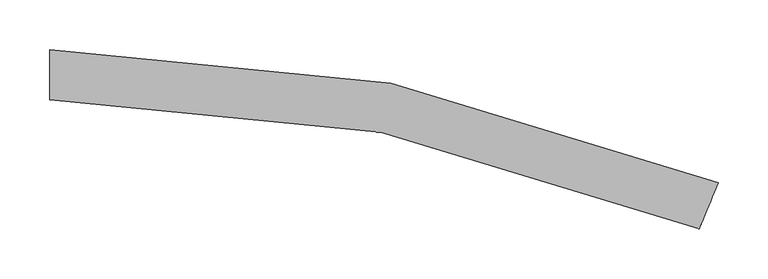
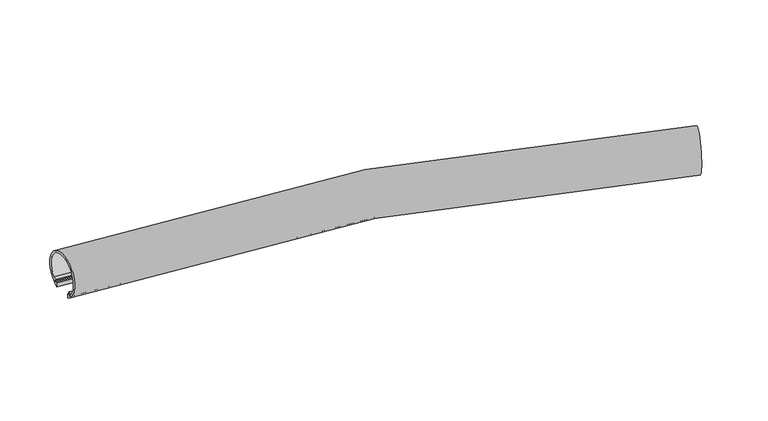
"""IFC4 building model written with IfcOpenShell, lengths in millimetres: light fixture geometry, ARTEMIDE-AoL-System-Curved_Suspended_US : Suspended_Curved 22.5°-1726mm 1118lm 3500K."""

import ifcopenshell
import ifcopenshell.guid

model = None  # the IFC model being written
_history = None  # IfcOwnerHistory: only IFC2X3 demands one
_inside = {}  # id of a spatial element -> (the spatial element, [elements in it])
_under = {}  # id of a project, library or spatial element -> (it, [spatial elements below it])
_declared = {}  # id of a project -> (the project, [libraries it declares])
_typed = {}  # id of a type object -> (the type object, [elements of that type])
_made_of = {}  # id of a material, layer set ... -> (it, [elements and type objects made of it])


def new_model(schema):
    """Start an empty IFC model of exactly this schema.

    Asked for "IFC4X3", IfcOpenShell would pick the latest addendum, in which some entities
    have other attributes; the version numbers below select the first issue.
    IFC2X3 requires an IfcOwnerHistory on every rooted entity: one is made here for all.
    """
    global model, _history
    if schema == "IFC4X3":
        model = ifcopenshell.file(schema_version=(4, 3, 0, 0))
    else:
        model = ifcopenshell.file(schema=schema)
    _inside.clear()
    _under.clear()
    _declared.clear()
    _typed.clear()
    _made_of.clear()
    _history = None
    if model.schema == "IFC2X3":
        org = make("IfcOrganization", Name="unknown")
        user = make(
            "IfcPersonAndOrganization",
            ThePerson=make("IfcPerson", FamilyName="unknown"),
            TheOrganization=org,
        )
        app = make(
            "IfcApplication",
            ApplicationDeveloper=org,
            Version="unknown",
            ApplicationFullName="unknown",
            ApplicationIdentifier="unknown",
        )
        _history = make(
            "IfcOwnerHistory",
            OwningUser=user,
            OwningApplication=app,
            ChangeAction="ADDED",
            CreationDate=0,
        )
    return model


def make(cls, **values):
    """One entity of the class cls with the attributes given. An attribute that is None is left unset."""
    return model.create_entity(
        cls, **{name: value for name, value in values.items() if value is not None}
    )


def rooted(cls, **values):
    """An entity with a GlobalId (a new one), such as an element, a storey or a relation."""
    return make(cls, GlobalId=ifcopenshell.guid.new(), OwnerHistory=_history, **values)


def si_unit(unit_type, name, prefix=None):
    """IfcSIUnit, for example si_unit("LENGTHUNIT", "METRE", prefix="MILLI")."""
    return make("IfcSIUnit", UnitType=unit_type, Prefix=prefix, Name=name)


def assignment(units):
    """IfcUnitAssignment: the units of a project."""
    return None if units is None else make("IfcUnitAssignment", Units=units)


def point(xyz):
    """IfcCartesianPoint."""
    return None if xyz is None else make("IfcCartesianPoint", Coordinates=xyz)


def direction(xyz):
    """IfcDirection."""
    return None if xyz is None else make("IfcDirection", DirectionRatios=xyz)


def frame(location, z_axis=None, x_axis=None):
    """IfcAxis2Placement3D, a coordinate frame: its origin and axes. An axis left out is left unset."""
    return make(
        "IfcAxis2Placement3D",
        Location=point(location),
        Axis=direction(z_axis),
        RefDirection=direction(x_axis),
    )


def origin():
    """The frame at (0, 0, 0) with its axes left unset."""
    return frame((0.0, 0.0, 0.0))


def place(relative_to, where):
    """IfcLocalPlacement: puts the frame where relative to a parent placement (None: the world)."""
    return make(
        "IfcLocalPlacement", PlacementRelTo=relative_to, RelativePlacement=where
    )


def context(
    kind, dimensions, precision=None, world=None, true_north=None, identifier=None
):
    """IfcGeometricRepresentationContext, for example the 3D "Model" context."""
    return make(
        "IfcGeometricRepresentationContext",
        ContextIdentifier=identifier,
        ContextType=kind,
        CoordinateSpaceDimension=dimensions,
        Precision=precision,
        WorldCoordinateSystem=world,
        TrueNorth=true_north,
    )


def project(units=None, contexts=None):
    """IfcProject with its units and contexts."""
    return rooted(
        "IfcProject",
        Name="project",
        RepresentationContexts=contexts,
        UnitsInContext=assignment(units),
    )


def spatial(cls, under=None, at=None, **own):
    """A site, building, storey or space (cls), placed at a placement, below another one or the project."""
    s = rooted(cls, ObjectPlacement=at, **own)
    if under is not None:
        _under.setdefault(under.id(), (under, []))[1].append(s)
    return s


def polyline(points):
    """IfcPolyline through the points."""
    return make("IfcPolyline", Points=[point(p) for p in points])


def circle_curve(where, radius):
    """IfcCircle in the frame where."""
    return make("IfcCircle", Position=where, Radius=radius)


def ellipse_curve(where, semi_axis1, semi_axis2):
    """IfcEllipse in the frame where."""
    return make(
        "IfcEllipse", Position=where, SemiAxis1=semi_axis1, SemiAxis2=semi_axis2
    )


def trimmed(basis, trim1, trim2, sense, master):
    """IfcTrimmedCurve: the piece of a basis curve between two trims."""
    return make(
        "IfcTrimmedCurve",
        BasisCurve=basis,
        Trim1=trim1,
        Trim2=trim2,
        SenseAgreement=sense,
        MasterRepresentation=master,
    )


def shape(context_of_items, identifier, shape_type, items):
    """IfcShapeRepresentation: the items that make up one representation, for example the "Body"."""
    return make(
        "IfcShapeRepresentation",
        ContextOfItems=context_of_items,
        RepresentationIdentifier=identifier,
        RepresentationType=shape_type,
        Items=items,
    )


def source(mapping_origin, context_of_items, identifier, shape_type, items):
    """IfcRepresentationMap: a shape defined once, which mapped items show again and again."""
    return make(
        "IfcRepresentationMap",
        MappingOrigin=mapping_origin,
        MappedRepresentation=shape(context_of_items, identifier, shape_type, items),
    )


def transform(
    local_origin,
    x_axis=None,
    y_axis=None,
    z_axis=None,
    scale=None,
    scale2=None,
    scale3=None,
    uniform=True,
):
    """IfcCartesianTransformationOperator3D, or its non-uniform kind. x_axis, y_axis, z_axis: its Axis1, 2, 3."""
    if uniform:
        return make(
            "IfcCartesianTransformationOperator3D",
            Axis1=direction(x_axis),
            Axis2=direction(y_axis),
            LocalOrigin=point(local_origin),
            Scale=scale,
            Axis3=direction(z_axis),
        )
    return make(
        "IfcCartesianTransformationOperator3DnonUniform",
        Axis1=direction(x_axis),
        Axis2=direction(y_axis),
        LocalOrigin=point(local_origin),
        Scale=scale,
        Axis3=direction(z_axis),
        Scale2=scale2,
        Scale3=scale3,
    )


def mapped(mapping_source, mapping_target):
    """IfcMappedItem: shows the shape of a source again, moved by a transform."""
    return make(
        "IfcMappedItem", MappingSource=mapping_source, MappingTarget=mapping_target
    )


def made_of(thing, what):
    """Note that an element or type object is made of a material, layer set ...; save() writes the relation."""
    if what is not None:
        _made_of.setdefault(what.id(), (what, []))[1].append(thing)
    return thing


def element(
    cls,
    number,
    at=None,
    inside=None,
    cuts=None,
    type_object=None,
    material=None,
    context=None,
    identifier="Body",
    shape_type=None,
    held_by="IfcProductDefinitionShape",
    body=None,
    shapes=None,
    **own,
):
    """One element of the class cls, such as IfcWall. Its Tag is "e" and its number.

    at: its placement. inside: the storey or other place that contains it. cuts: it is an
    opening in that element (IfcRelVoidsElement). A single representation is given by context,
    identifier, shape_type and body (its items); several are given by shapes. held_by: the class
    of the entity that holds the representations. save() writes the other relations.
    """
    e = rooted(cls, Tag="e%d" % number, ObjectPlacement=at, **own)
    if body is not None:
        shapes = [shape(context, identifier, shape_type, body)]
    if shapes is not None:
        e.Representation = make(held_by, Representations=shapes)
    if inside is not None:
        _inside.setdefault(inside.id(), (inside, []))[1].append(e)
    if cuts is not None:
        rooted(
            "IfcRelVoidsElement", RelatingBuildingElement=cuts, RelatedOpeningElement=e
        )
    if type_object is not None:
        _typed.setdefault(type_object.id(), (type_object, []))[1].append(e)
    return made_of(e, material)


def aggregate(whole, parts):
    """IfcRelAggregates: a whole, such as a stair, and the parts it consists of."""
    return rooted("IfcRelAggregates", RelatingObject=whole, RelatedObjects=parts)


def save(model, path):
    """Write the relations noted so far, then the file.

    IfcRelAggregates (storeys below a building ...), IfcRelContainedInSpatialStructure (elements
    in a storey), IfcRelDefinesByType, IfcRelAssociatesMaterial and IfcRelDeclares: one each for
    every whole, place, type object, material and project.
    """
    for whole, parts in _under.values():
        aggregate(whole, parts)
    for where, things in _inside.values():
        rooted(
            "IfcRelContainedInSpatialStructure",
            RelatedElements=things,
            RelatingStructure=where,
        )
    for kind, things in _typed.values():
        rooted("IfcRelDefinesByType", RelatedObjects=things, RelatingType=kind)
    for what, things in _made_of.values():
        rooted("IfcRelAssociatesMaterial", RelatedObjects=things, RelatingMaterial=what)
    for by, libraries in _declared.values():
        rooted("IfcRelDeclares", RelatingContext=by, RelatedDefinitions=libraries)
    model.write(path)


def plane_surface(at):
    """IfcPlane: the flat surface through the origin of the frame at, square to its z axis."""
    return make("IfcPlane", Position=at)


def cylinder_surface(at, radius):
    """IfcCylindricalSurface: all points at the distance radius from the z axis of the frame at."""
    return make("IfcCylindricalSurface", Position=at, Radius=radius)


def revolved_surface(curve, axis_point, axis_direction):
    """IfcSurfaceOfRevolution: the curve turned about the line through axis_point along axis_direction."""
    return make(
        "IfcSurfaceOfRevolution",
        SweptCurve=make("IfcArbitraryOpenProfileDef", ProfileType="CURVE", Curve=curve),
        AxisPosition=make("IfcAxis1Placement", Location=point(axis_point), Axis=direction(axis_direction)),
    )


def advanced_brep(points, edges, surfaces, faces):
    """IfcAdvancedBrep: a solid bounded by faces that lie on surfaces and meet in shared edges.

    An edge is (start, end): straight between two places in points (the first is 0);
    or (start, end, curve); or (start, end, curve, False) where it runs against its curve.
    A face is (place in surfaces, loops), or (place, loops, False) where it looks against
    its surface's normal. A loop lists edges by number (the first is 1), with a minus sign
    where the edge is run from its end to its start. The first loop is the outer one.
    """
    corners = [point(p) for p in points]
    vertices = [make("IfcVertexPoint", VertexGeometry=c) for c in corners]
    made = []
    for start, end, *more in edges:
        made.append(
            make(
                "IfcEdgeCurve",
                EdgeStart=vertices[start],
                EdgeEnd=vertices[end],
                EdgeGeometry=more[0] if more else make("IfcPolyline", Points=[corners[start], corners[end]]),
                SameSense=more[1] if len(more) > 1 else True,
            )
        )
    hull = []
    for where, loops, *sense in faces:
        bounds = []
        for j, loop in enumerate(loops):
            ring = [make("IfcOrientedEdge", EdgeElement=made[abs(k) - 1], Orientation=k > 0) for k in loop]
            bounds.append(
                make(
                    "IfcFaceOuterBound" if j == 0 else "IfcFaceBound",
                    Bound=make("IfcEdgeLoop", EdgeList=ring),
                    Orientation=True,
                )
            )
        hull.append(make("IfcAdvancedFace", Bounds=bounds, FaceSurface=surfaces[where], SameSense=sense[0] if sense else True))
    return make("IfcAdvancedBrep", Outer=make("IfcClosedShell", CfsFaces=hull))


def light_fixture_542ddf44(model_context):
    return source(origin(), model_context, "Body", "AdvancedBrep", [
        advanced_brep(
        [(608.0429238, -98.7153269, 502.6676119), (608.0429238, -98.7153269, 507.259212), (608.894281, -96.4382685, 507.259212), (608.894281, -96.4382685, 509.244074), (608.5440736, -97.3749407, 509.244074), (608.5440736, -97.3749407, 510.744074), (599.6713917, -121.1060064, 510.744074), (599.6713917, -121.1060064, 509.244074), (599.3211843, -122.0426786, 509.244074), (599.3211843, -122.0426786, 507.259212), (600.1725416, -119.7656202, 507.259212), (600.1725416, -119.7656202, 502.6676119), (59.8094751, -12.2807234, 502.6676119), (60.5937886, 10.1790766, 502.6676119), (60.5937886, 10.1790766, 507.259212), (60.6786295, 12.6086046, 507.259212), (60.6786295, 12.6086046, 509.244074), (60.6437301, 11.6092138, 509.244074), (60.6437301, 11.6092138, 510.744074), (59.7595336, -13.7108605, 510.744074), (59.7595336, -13.7108605, 509.244074), (59.7246341, -14.7102514, 509.244074), (59.7246341, -14.7102514, 507.259212), (59.8094751, -12.2807234, 507.259212)],
        [
            (0, 1),
            (1, 2),
            (2, 3),
            (3, 4),
            (4, 5),
            (5, 6),
            (6, 7),
            (7, 8),
            (8, 9),
            (9, 10),
            (10, 11),
            (11, 0, circle_curve(frame((604.1077327, -109.2404735, 525.0), z_axis=(0.936672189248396, -0.35020738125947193, 0.0), x_axis=(0.35020738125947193, 0.936672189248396, 0.0)), 25.0)),
            (11, 12, circle_curve(frame((0.0, -1725.0, 502.6676119), z_axis=(0.0, 0.0, 1.0), x_axis=(0.0, 1.0, 0.0)), 1713.7632549)),
            (12, 13, circle_curve(frame((60.2016318, -1.0508234, 525.0), z_axis=(0.9993908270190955, -0.03489949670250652, 0.0), x_axis=(0.03489949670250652, 0.9993908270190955, 0.0)), 25.0)),
            (13, 0, circle_curve(frame((0.0, -1725.0, 502.6676119), z_axis=(0.0, 0.0, -1.0), x_axis=(0.0, 1.0, 0.0)), 1736.2367451)),
            (13, 14),
            (14, 1, circle_curve(frame((0.0, -1725.0, 507.259212), z_axis=(0.0, 0.0, -1.0), x_axis=(0.0, 1.0, 0.0)), 1736.2367451)),
            (14, 15),
            (15, 2, circle_curve(frame((0.0, -1725.0, 507.259212), z_axis=(0.0, 0.0, -1.0), x_axis=(0.0, 1.0, 0.0)), 1738.667754)),
            (15, 16),
            (16, 3, circle_curve(frame((0.0, -1725.0, 509.244074), z_axis=(0.0, 0.0, -1.0), x_axis=(0.0, 1.0, 0.0)), 1738.667754)),
            (16, 17),
            (17, 4, circle_curve(frame((0.0, -1725.0, 509.244074), z_axis=(0.0, 0.0, -1.0), x_axis=(0.0, 1.0, 0.0)), 1737.667754)),
            (17, 18),
            (18, 5, circle_curve(frame((0.0, -1725.0, 510.744074), z_axis=(0.0, 0.0, -1.0), x_axis=(0.0, 1.0, 0.0)), 1737.667754)),
            (18, 19),
            (19, 6, circle_curve(frame((0.0, -1725.0, 510.744074), z_axis=(0.0, 0.0, -1.0), x_axis=(0.0, 1.0, 0.0)), 1712.332246)),
            (19, 20),
            (20, 7, circle_curve(frame((0.0, -1725.0, 509.244074), z_axis=(0.0, 0.0, -1.0), x_axis=(0.0, 1.0, 0.0)), 1712.332246)),
            (20, 21),
            (21, 8, circle_curve(frame((0.0, -1725.0, 509.244074), z_axis=(0.0, 0.0, -1.0), x_axis=(0.0, 1.0, 0.0)), 1711.332246)),
            (21, 22),
            (22, 9, circle_curve(frame((0.0, -1725.0, 507.259212), z_axis=(0.0, 0.0, -1.0), x_axis=(0.0, 1.0, 0.0)), 1711.332246)),
            (22, 23),
            (23, 10, circle_curve(frame((0.0, -1725.0, 507.259212), z_axis=(0.0, 0.0, -1.0), x_axis=(0.0, 1.0, 0.0)), 1713.7632549)),
            (23, 12),
        ],
        [
            plane_surface(frame((604.1077327, -109.2404735, 500.0), z_axis=(0.9366721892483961, -0.3502073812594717, 0.0), x_axis=(0.0, 0.0, 1.0))),
            revolved_surface(trimmed(ellipse_curve(frame((0.0, 0.0, 525.0), z_axis=(-1.0, 0.0, 0.0), x_axis=(0.0, 1.0, 0.0)), 25.0, 25.0), [point((0.0, 11.2367451, 502.6676119))], [point((0.0, -11.2367451, 502.6676119))], True, "CARTESIAN"), (0.0, -1725.0, 500.0), (0.0, 0.0, -1.0)),
            cylinder_surface(frame((0.0, -1725.0, 500.0), z_axis=(0.0, 0.0, -1.0), x_axis=(0.0, 1.0, 0.0)), 1736.2367451),
            plane_surface(frame((0.0, -1725.0, 507.259212), z_axis=(0.0, 0.0, -1.0), x_axis=(0.0, 1.0, 0.0))),
            cylinder_surface(frame((0.0, -1725.0, 500.0), z_axis=(0.0, 0.0, -1.0), x_axis=(0.0, 1.0, 0.0)), 1738.667754),
            plane_surface(frame((0.0, -1725.0, 509.244074), z_axis=(0.0, 0.0, 1.0), x_axis=(0.0, 1.0, 0.0))),
            cylinder_surface(frame((0.0, -1725.0, 500.0), z_axis=(0.0, 0.0, -1.0), x_axis=(0.0, 1.0, 0.0)), 1737.667754),
            plane_surface(frame((0.0, -1725.0, 510.744074), z_axis=(0.0, 0.0, 1.0), x_axis=(0.0, 1.0, 0.0))),
            revolved_surface(polyline([(0.0, -12.667754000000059, 509.244074), (0.0, -12.667754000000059, 510.744074)]), (0.0, -1725.0, 500.0), (0.0, 0.0, -1.0)),
            revolved_surface(polyline([(0.0, -13.667754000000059, 507.259212), (0.0, -13.667754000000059, 509.244074)]), (0.0, -1725.0, 500.0), (0.0, 0.0, -1.0)),
            revolved_surface(polyline([(0.0, -11.236745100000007, 502.6676119), (0.0, -11.236745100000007, 507.259212)]), (0.0, -1725.0, 500.0), (0.0, 0.0, -1.0)),
            plane_surface(frame((60.2016318, -1.0508234, 500.0), z_axis=(-0.9993908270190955, 0.03489949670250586, 0.0), x_axis=(0.0, 0.0, 1.0))),
        ],
        [
            (0, [[1, 2, 3, 4, 5, 6, 7, 8, 9, 10, 11, 12]]),
            (1, [[-12, 13, 14, 15]]),
            (2, [[-1, -15, 16, 17]]),
            (3, [[-2, -17, 18, 19]]),
            (4, [[-3, -19, 20, 21]]),
            (5, [[-4, -21, 22, 23]]),
            (6, [[-5, -23, 24, 25]]),
            (7, [[-6, -25, 26, 27]]),
            (8, [[-7, -27, 28, 29]]),
            (5, [[-8, -29, 30, 31]]),
            (9, [[-9, -31, 32, 33]]),
            (3, [[-10, -33, 34, 35]]),
            (10, [[-11, -35, 36, -13]]),
            (11, [[-14, -36, -34, -32, -30, -28, -26, -24, -22, -20, -18, -16]]),
        ],
    ),
        advanced_brep(
        [(0.0, -11.2367451, 502.6676119), (0.0, 11.2367451, 502.6676119), (0.0, 11.2367451, 507.259212), (0.0, 13.667754, 507.259212), (0.0, 13.667754, 505.8288843), (0.0, 15.617754, 507.2440748), (0.0, 15.617754, 509.244074), (0.0, 12.667754, 509.244074), (0.0, 12.667754, 510.744074), (0.0, 17.2779794, 510.744074), (0.0, -17.2779794, 510.744074), (0.0, -12.667754, 510.744074), (0.0, -12.667754, 509.244074), (0.0, -15.617754, 509.244074), (0.0, -15.617754, 507.2440748), (0.0, -13.667754, 505.8288843), (0.0, -13.667754, 507.259212), (0.0, -11.2367451, 507.259212), (655.8288046, -141.6892052, 502.6676119), (655.8288046, -141.6892052, 507.259212), (654.8984978, -143.9351646, 507.259212), (654.8984978, -143.9351646, 505.8288843), (654.1522651, -145.7367297, 507.2440748), (654.1522651, -145.7367297, 509.244074), (655.2811812, -143.0112851, 509.244074), (655.2811812, -143.0112851, 510.744074), (653.5169244, -147.270578, 510.744074), (666.7409173, -115.3450348, 510.744074), (664.9766604, -119.6043278, 510.744074), (664.9766604, -119.6043278, 509.244074), (666.1055765, -116.8788832, 509.244074), (666.1055765, -116.8788832, 507.2440748), (665.3593438, -118.6804482, 505.8288843), (665.3593438, -118.6804482, 507.259212), (664.429037, -120.9264076, 507.259212), (664.429037, -120.9264076, 502.6676119)],
        [
            (0, 1, circle_curve(frame((0.0, 0.0, 525.0), z_axis=(-1.0, 0.0, 0.0), x_axis=(0.0, 1.0, 0.0)), 25.0)),
            (1, 2),
            (2, 3),
            (3, 4),
            (4, 5),
            (5, 6),
            (6, 7),
            (7, 8),
            (8, 9),
            (9, 10, circle_curve(frame((0.0, 0.0, 525.0), z_axis=(1.0, 0.0, 0.0), x_axis=(0.0, 1.0, 0.0)), 22.4)),
            (10, 11),
            (11, 12),
            (12, 13),
            (13, 14),
            (14, 15),
            (15, 16),
            (16, 17),
            (17, 0),
            (18, 19),
            (19, 20),
            (20, 21),
            (21, 22),
            (22, 23),
            (23, 24),
            (24, 25),
            (25, 26),
            (26, 27, circle_curve(frame((660.1289208, -131.3078064, 525.0), z_axis=(-0.923879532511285, 0.3826834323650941, 0.0), x_axis=(0.3826834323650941, 0.923879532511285, 0.0)), 22.4)),
            (27, 28),
            (28, 29),
            (29, 30),
            (30, 31),
            (31, 32),
            (32, 33),
            (33, 34),
            (34, 35),
            (35, 18, circle_curve(frame((660.1289208, -131.3078064, 525.0), z_axis=(0.923879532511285, -0.3826834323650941, 0.0), x_axis=(0.3826834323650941, 0.923879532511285, 0.0)), 25.0)),
            (35, 1, circle_curve(frame((0.0, -1725.0, 502.6676119), z_axis=(0.0, 0.0, 1.0), x_axis=(0.0, 1.0, 0.0)), 1736.2367451)),
            (0, 18, circle_curve(frame((0.0, -1725.0, 502.6676119), z_axis=(0.0, 0.0, -1.0), x_axis=(0.0, 1.0, 0.0)), 1713.7632549)),
            (34, 2, circle_curve(frame((0.0, -1725.0, 507.259212), z_axis=(0.0, 0.0, 1.0), x_axis=(0.0, 1.0, 0.0)), 1736.2367451)),
            (33, 3, circle_curve(frame((0.0, -1725.0, 507.259212), z_axis=(0.0, 0.0, 1.0), x_axis=(0.0, 1.0, 0.0)), 1738.667754)),
            (32, 4, circle_curve(frame((0.0, -1725.0, 505.8288843), z_axis=(0.0, 0.0, 1.0), x_axis=(0.0, 1.0, 0.0)), 1738.667754)),
            (31, 5, circle_curve(frame((0.0, -1725.0, 507.2440748), z_axis=(0.0, 0.0, 1.0), x_axis=(0.0, 1.0, 0.0)), 1740.617754)),
            (30, 6, circle_curve(frame((0.0, -1725.0, 509.244074), z_axis=(0.0, 0.0, 1.0), x_axis=(0.0, 1.0, 0.0)), 1740.617754)),
            (29, 7, circle_curve(frame((0.0, -1725.0, 509.244074), z_axis=(0.0, 0.0, 1.0), x_axis=(0.0, 1.0, 0.0)), 1737.667754)),
            (28, 8, circle_curve(frame((0.0, -1725.0, 510.744074), z_axis=(0.0, 0.0, 1.0), x_axis=(0.0, 1.0, 0.0)), 1737.667754)),
            (27, 9, circle_curve(frame((0.0, -1725.0, 510.744074), z_axis=(0.0, 0.0, 1.0), x_axis=(0.0, 1.0, 0.0)), 1742.2779794)),
            (25, 11, circle_curve(frame((0.0, -1725.0, 510.744074), z_axis=(0.0, 0.0, 1.0), x_axis=(0.0, 1.0, 0.0)), 1712.332246)),
            (10, 26, circle_curve(frame((0.0, -1725.0, 510.744074), z_axis=(0.0, 0.0, -1.0), x_axis=(0.0, 1.0, 0.0)), 1707.7220206)),
            (24, 12, circle_curve(frame((0.0, -1725.0, 509.244074), z_axis=(0.0, 0.0, 1.0), x_axis=(0.0, 1.0, 0.0)), 1712.332246)),
            (23, 13, circle_curve(frame((0.0, -1725.0, 509.244074), z_axis=(0.0, 0.0, 1.0), x_axis=(0.0, 1.0, 0.0)), 1709.382246)),
            (22, 14, circle_curve(frame((0.0, -1725.0, 507.2440748), z_axis=(0.0, 0.0, 1.0), x_axis=(0.0, 1.0, 0.0)), 1709.382246)),
            (21, 15, circle_curve(frame((0.0, -1725.0, 505.8288843), z_axis=(0.0, 0.0, 1.0), x_axis=(0.0, 1.0, 0.0)), 1711.332246)),
            (20, 16, circle_curve(frame((0.0, -1725.0, 507.259212), z_axis=(0.0, 0.0, 1.0), x_axis=(0.0, 1.0, 0.0)), 1711.332246)),
            (19, 17, circle_curve(frame((0.0, -1725.0, 507.259212), z_axis=(0.0, 0.0, 1.0), x_axis=(0.0, 1.0, 0.0)), 1713.7632549)),
        ],
        [
            plane_surface(frame((0.0, 0.0, 500.0), z_axis=(-1.0, 0.0, 0.0), x_axis=(0.0, 0.0, 1.0))),
            plane_surface(frame((660.1289208, -131.3078064, 500.0), z_axis=(0.923879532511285, -0.3826834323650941, 0.0), x_axis=(0.0, 0.0, 1.0))),
            revolved_surface(trimmed(ellipse_curve(frame((0.0, 0.0, 525.0), z_axis=(-1.0, 0.0, 0.0), x_axis=(0.0, 1.0, 0.0)), 25.0, 25.0), [point((0.0, -11.2367451, 502.6676119))], [point((0.0, 11.2367451, 502.6676119))], True, "CARTESIAN"), (0.0, -1725.0, 500.0), (0.0, 0.0, -1.0)),
            revolved_surface(polyline([(0.0, 11.236745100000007, 502.6676119), (0.0, 11.236745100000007, 507.259212)]), (0.0, -1725.0, 500.0), (0.0, 0.0, -1.0)),
            plane_surface(frame((0.0, -1725.0, 507.259212), z_axis=(0.0, 0.0, 1.0), x_axis=(0.0, 1.0, 0.0))),
            cylinder_surface(frame((0.0, -1725.0, 500.0), z_axis=(0.0, 0.0, -1.0), x_axis=(0.0, 1.0, 0.0)), 1738.667754),
            revolved_surface(polyline([(0.0, 13.667754, 505.8288843), (0.0, 15.617754, 507.2440748)]), (0.0, -1725.0, 500.0), (0.0, 0.0, -1.0)),
            revolved_surface(polyline([(0.0, 15.617754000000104, 507.2440748), (0.0, 15.617754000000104, 509.244074)]), (0.0, -1725.0, 500.0), (0.0, 0.0, -1.0)),
            plane_surface(frame((0.0, -1725.0, 509.244074), z_axis=(0.0, 0.0, -1.0), x_axis=(0.0, 1.0, 0.0))),
            revolved_surface(polyline([(0.0, 12.667754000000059, 509.244074), (0.0, 12.667754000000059, 510.744074)]), (0.0, -1725.0, 500.0), (0.0, 0.0, -1.0)),
            plane_surface(frame((0.0, -1725.0, 510.744074), z_axis=(0.0, 0.0, 1.0), x_axis=(0.0, 1.0, 0.0))),
            cylinder_surface(frame((0.0, -1725.0, 500.0), z_axis=(0.0, 0.0, -1.0), x_axis=(0.0, 1.0, 0.0)), 1712.332246),
            cylinder_surface(frame((0.0, -1725.0, 500.0), z_axis=(0.0, 0.0, -1.0), x_axis=(0.0, 1.0, 0.0)), 1709.382246),
            revolved_surface(polyline([(0.0, -15.617754, 507.2440748), (0.0, -13.667754, 505.8288843)]), (0.0, -1725.0, 500.0), (0.0, 0.0, -1.0)),
            revolved_surface(polyline([(0.0, -13.667754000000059, 505.8288843), (0.0, -13.667754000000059, 507.259212)]), (0.0, -1725.0, 500.0), (0.0, 0.0, -1.0)),
            cylinder_surface(frame((0.0, -1725.0, 500.0), z_axis=(0.0, 0.0, -1.0), x_axis=(0.0, 1.0, 0.0)), 1713.7632549),
            revolved_surface(trimmed(ellipse_curve(frame((0.0, 0.0, 525.0), z_axis=(1.0, 0.0, 0.0), x_axis=(0.0, 1.0, 0.0)), 22.4, 22.4), [point((0.0, 17.2779794, 510.744074))], [point((0.0, -17.2779794, 510.744074))], True, "CARTESIAN"), (0.0, -1725.0, 500.0), (0.0, 0.0, -1.0)),
        ],
        [
            (0, [[1, 2, 3, 4, 5, 6, 7, 8, 9, 10, 11, 12, 13, 14, 15, 16, 17, 18]]),
            (1, [[19, 20, 21, 22, 23, 24, 25, 26, 27, 28, 29, 30, 31, 32, 33, 34, 35, 36]]),
            (2, [[37, -1, 38, -36]]),
            (3, [[39, -2, -37, -35]]),
            (4, [[40, -3, -39, -34]]),
            (5, [[41, -4, -40, -33]]),
            (6, [[42, -5, -41, -32]]),
            (7, [[43, -6, -42, -31]]),
            (8, [[44, -7, -43, -30]]),
            (9, [[45, -8, -44, -29]]),
            (10, [[46, -9, -45, -28]]),
            (10, [[47, -11, 48, -26]]),
            (11, [[49, -12, -47, -25]]),
            (8, [[50, -13, -49, -24]]),
            (12, [[51, -14, -50, -23]]),
            (13, [[52, -15, -51, -22]]),
            (14, [[53, -16, -52, -21]]),
            (4, [[54, -17, -53, -20]]),
            (15, [[-38, -18, -54, -19]]),
            (16, [[-48, -10, -46, -27]]),
        ],
    ),
    ])


if __name__ == "__main__":
    model = new_model("IFC4")
    model_context = context("Model", 3, world=origin())
    ifc_project = project(units=[si_unit("LENGTHUNIT", "METRE", prefix="MILLI")], contexts=[model_context])
    site = spatial("IfcSite", under=ifc_project)
    building = spatial("IfcBuilding", under=site)
    placement = place(None, origin())
    light_fixture_shape = light_fixture_542ddf44(model_context)
    element("IfcLightFixture", 1, ObjectType="ARTEMIDE-AoL-System-Curved_Suspended_US : Suspended_Curved 22.5°-1726mm 1118lm 3500K", at=placement, inside=building, context=model_context, shape_type="MappedRepresentation", body=[
        mapped(light_fixture_shape, transform((0.0, 0.0, 0.0), x_axis=(1.0, 0.0, 0.0), y_axis=(0.0, 1.0, 0.0), z_axis=(0.0, 0.0, 1.0))),
    ])
    save(model, "model.ifc")
